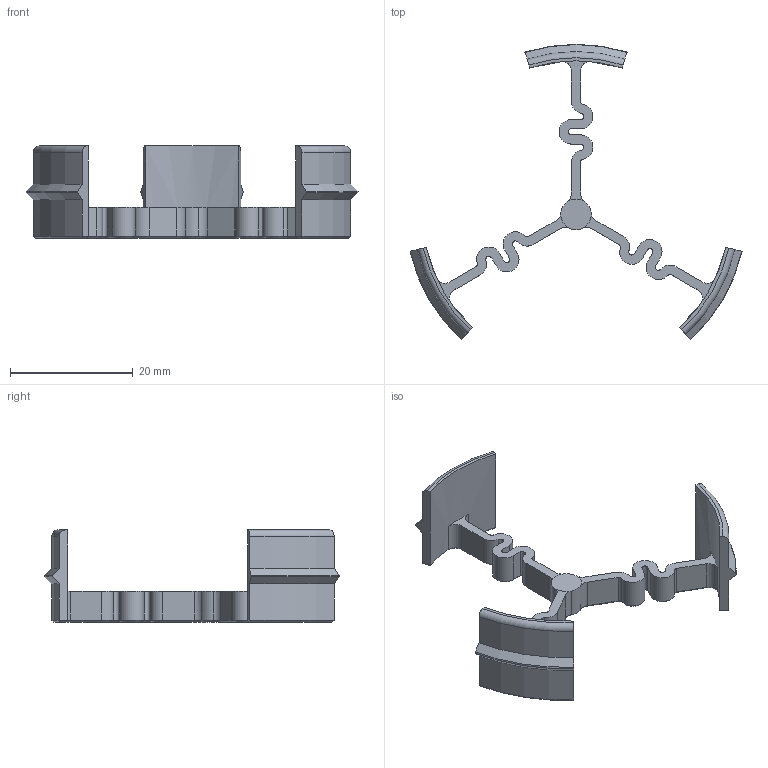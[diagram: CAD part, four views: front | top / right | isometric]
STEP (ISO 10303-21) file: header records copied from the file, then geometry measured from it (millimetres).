
FILE_DESCRIPTION(('FreeCAD Model'),'2;1');
FILE_NAME('D:/GitRepo/CAD-Design/FreeCAD/Spool_Organizer/spool_connector.V02.step' ,'2017-11-26T15:00:46',('Author'),(''), 'Open CASCADE STEP processor 7.1','FreeCAD','Unknown');
FILE_SCHEMA(('AUTOMOTIVE_DESIGN { 1 0 10303 214 1 1 1 1 }'));
Length unit declared in the file: millimetre
Products named in the file (1): Connector.03.Chamfer
Bounding box: 54.09 x 48.12 x 15 mm (x, y, z)
Volume: 1921 mm3; surface area: 2918.6 mm2
Topology: 1 solids, 1 shells, 199 faces, 506 edges, 309 vertices
Faces by surface type: plane 71, cone 61, cylinder 55, bspline 6, torus 6
Entity records: 12843 total; most frequent: CARTESIAN_POINT 3037, DIRECTION 1812, ORIENTED_EDGE 1012, PCURVE 1012, DEFINITIONAL_REPRESENTATION 1012, LINE 926, VECTOR 926, EDGE_CURVE 506
